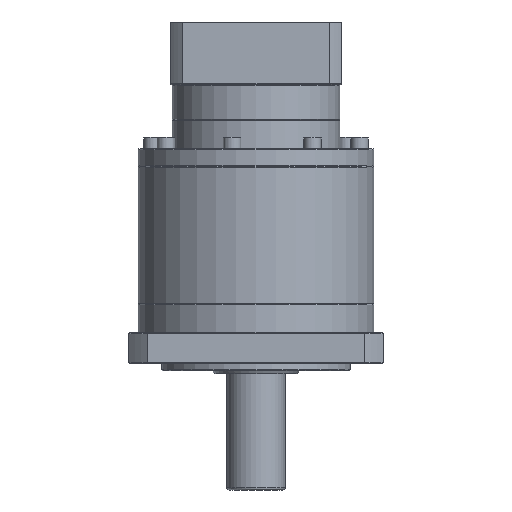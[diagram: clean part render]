
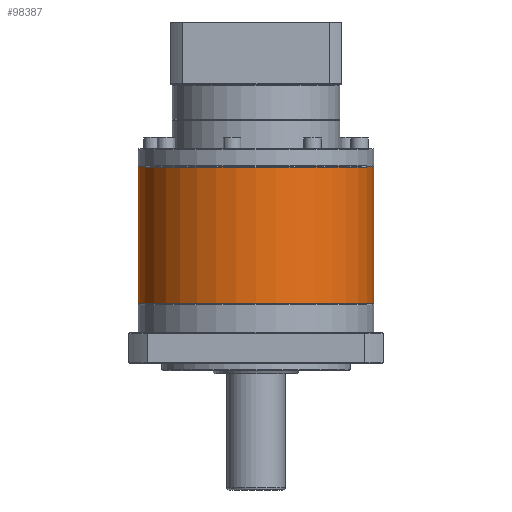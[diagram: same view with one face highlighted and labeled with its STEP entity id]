
A CAD part, front view. The second image highlights one B-rep face of the part: STEP entity #98387.
In plain terms, the highlighted cylindrical face has radius 81 mm (diameter 162 mm), a partial arc.
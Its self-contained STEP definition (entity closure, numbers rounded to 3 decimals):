
#158 = DIRECTION ( 'NONE',  ( -1., 0., 0. ) ) ;
#3742 = CARTESIAN_POINT ( 'NONE',  ( -64.481, 104.821, -85.397 ) ) ;
#5023 = CARTESIAN_POINT ( 'NONE',  ( -226.481, 104.821, -85.397 ) ) ;
#14247 = LINE ( 'NONE', #131694, #57227 ) ;
#15115 = CARTESIAN_POINT ( 'NONE',  ( -145.481, 104.821, -85.397 ) ) ;
#20129 = ORIENTED_EDGE ( 'NONE', *, *, #83112, .T. ) ;
#20744 = VERTEX_POINT ( 'NONE', #96217 ) ;
#21641 = FACE_OUTER_BOUND ( 'NONE', #40515, .T. ) ;
#22231 = AXIS2_PLACEMENT_3D ( 'NONE', #73048, #27923, #105138 ) ;
#27923 = DIRECTION ( 'NONE',  ( 0., 0., -1. ) ) ;
#34251 = ORIENTED_EDGE ( 'NONE', *, *, #53064, .F. ) ;
#40515 = EDGE_LOOP ( 'NONE', ( #34251, #106431, #20129, #68947 ) ) ;
#43989 = VECTOR ( 'NONE', #103882, 1000. ) ;
#45280 = EDGE_CURVE ( 'NONE', #128331, #129830, #78586, .T. ) ;
#45538 = EDGE_CURVE ( 'NONE', #20744, #64871, #80207, .T. ) ;
#49697 = DIRECTION ( 'NONE',  ( 0., 0., -1. ) ) ;
#53064 = EDGE_CURVE ( 'NONE', #128331, #64871, #115968, .T. ) ;
#57227 = VECTOR ( 'NONE', #76644, 1000. ) ;
#64871 = VERTEX_POINT ( 'NONE', #117886 ) ;
#68947 = ORIENTED_EDGE ( 'NONE', *, *, #45538, .T. ) ;
#72751 = CARTESIAN_POINT ( 'NONE',  ( -64.481, 104.821, -84.897 ) ) ;
#73048 = CARTESIAN_POINT ( 'NONE',  ( -145.481, 104.821, -84.897 ) ) ;
#76644 = DIRECTION ( 'NONE',  ( 0., 0., -1. ) ) ;
#78586 = CIRCLE ( 'NONE', #134331, 81. ) ;
#80207 = CIRCLE ( 'NONE', #92267, 81. ) ;
#83112 = EDGE_CURVE ( 'NONE', #129830, #20744, #14247, .T. ) ;
#85125 = CYLINDRICAL_SURFACE ( 'NONE', #22231, 81. ) ;
#92267 = AXIS2_PLACEMENT_3D ( 'NONE', #99418, #98928, #158 ) ;
#96217 = CARTESIAN_POINT ( 'NONE',  ( -226.481, 104.821, -178.897 ) ) ;
#98387 = ADVANCED_FACE ( 'NONE', ( #21641 ), #85125, .T. ) ;
#98928 = DIRECTION ( 'NONE',  ( 0., 0., 1. ) ) ;
#99418 = CARTESIAN_POINT ( 'NONE',  ( -145.481, 104.821, -178.897 ) ) ;
#103882 = DIRECTION ( 'NONE',  ( 0., 0., -1. ) ) ;
#105138 = DIRECTION ( 'NONE',  ( -1., 0., 0. ) ) ;
#106431 = ORIENTED_EDGE ( 'NONE', *, *, #45280, .T. ) ;
#115968 = LINE ( 'NONE', #72751, #43989 ) ;
#117886 = CARTESIAN_POINT ( 'NONE',  ( -64.481, 104.821, -178.897 ) ) ;
#126296 = DIRECTION ( 'NONE',  ( -1., 0., 0. ) ) ;
#128331 = VERTEX_POINT ( 'NONE', #3742 ) ;
#129830 = VERTEX_POINT ( 'NONE', #5023 ) ;
#131694 = CARTESIAN_POINT ( 'NONE',  ( -226.481, 104.821, -84.897 ) ) ;
#134331 = AXIS2_PLACEMENT_3D ( 'NONE', #15115, #49697, #126296 ) ;
